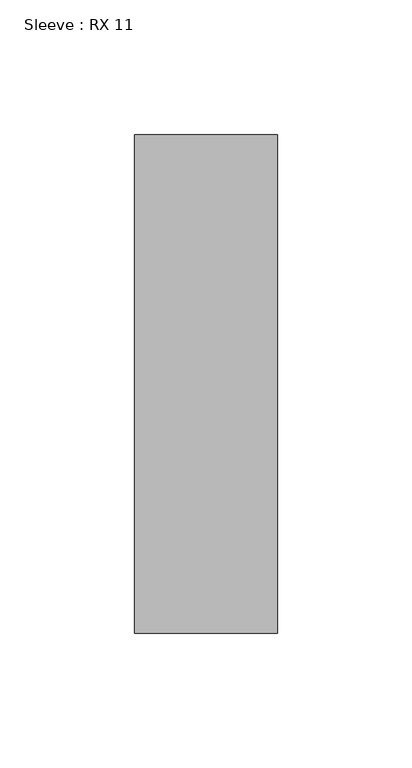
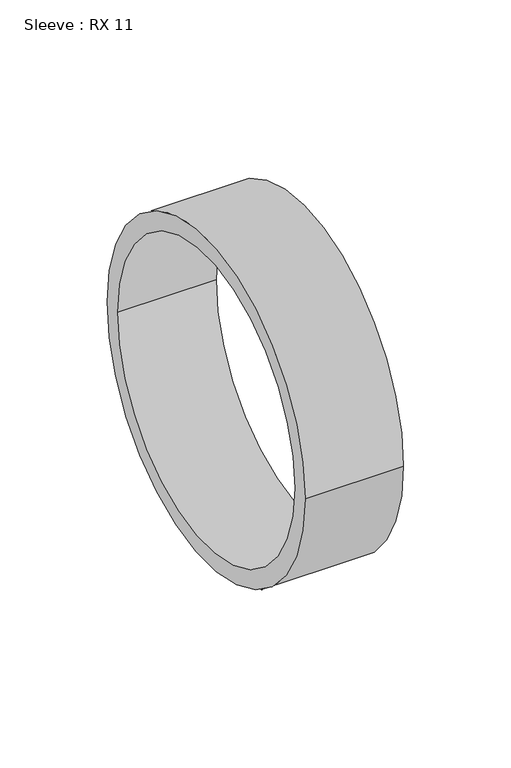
"""IFC4 building model written with IfcOpenShell, lengths in millimetres: pipe fitting geometry, Sleeve : RX 11."""

from ifc_helpers import new_model, si_unit, point, frame, origin, origin_2d, place, context, project, spatial, circle_curve, trimmed, segment, composite_curve, outline, extrude, source, transform, mapped, element, save


def sleeve_rx_11_53dfce0b(model_context):
    return source(origin(), model_context, "Body", "SweptSolid", [
        extrude(outline(composite_curve([segment(trimmed(circle_curve(origin_2d(), 92.5), [point((-92.5, 0.0))], [point((92.5, 0.0))], False, "CARTESIAN"), True, "CONTINUOUS"), segment(trimmed(circle_curve(origin_2d(), 92.5), [point((92.5, 0.0))], [point((-92.5, 0.0))], False, "CARTESIAN"), True, "CONTINUOUS")], self_intersect=False), holes=[composite_curve([segment(trimmed(circle_curve(origin_2d(), 82.55), [point((-82.55, 0.0))], [point((82.55, 0.0))], True, "CARTESIAN"), True, "CONTINUOUS"), segment(trimmed(circle_curve(origin_2d(), 82.55), [point((82.55, 0.0))], [point((-82.55, 0.0))], True, "CARTESIAN"), True, "CONTINUOUS")], self_intersect=False)]), frame((0.0, 0.0, 0.0), z_axis=(1.0, 0.0, 0.0), x_axis=(0.0, 1.0, 0.0)), (0.0, 0.0, 1.0), 53.0),
    ])


if __name__ == "__main__":
    model = new_model("IFC4")
    model_context = context("Model", 3, world=origin())
    ifc_project = project(units=[si_unit("LENGTHUNIT", "METRE", prefix="MILLI")], contexts=[model_context])
    site = spatial("IfcSite", under=ifc_project)
    building = spatial("IfcBuilding", under=site)
    placement = place(None, origin())
    sleeve_rx_11_shape = sleeve_rx_11_53dfce0b(model_context)
    element("IfcPipeFitting", 1, ObjectType="Sleeve : RX 11", at=placement, inside=building, context=model_context, shape_type="MappedRepresentation", body=[
        mapped(sleeve_rx_11_shape, transform((0.0, 0.0, 0.0), x_axis=(1.0, 0.0, 0.0), y_axis=(0.0, 1.0, 0.0), z_axis=(0.0, 0.0, 1.0))),
    ])
    save(model, "model.ifc")
